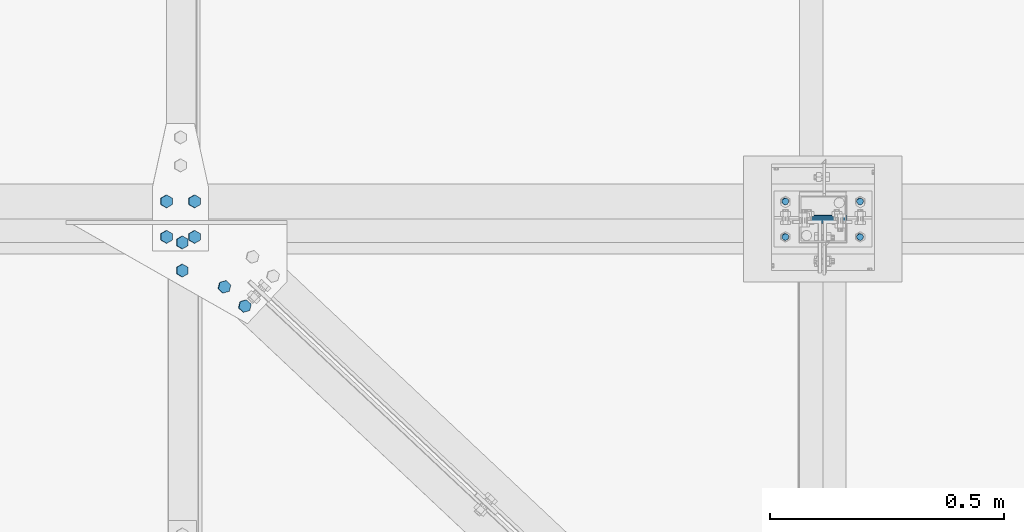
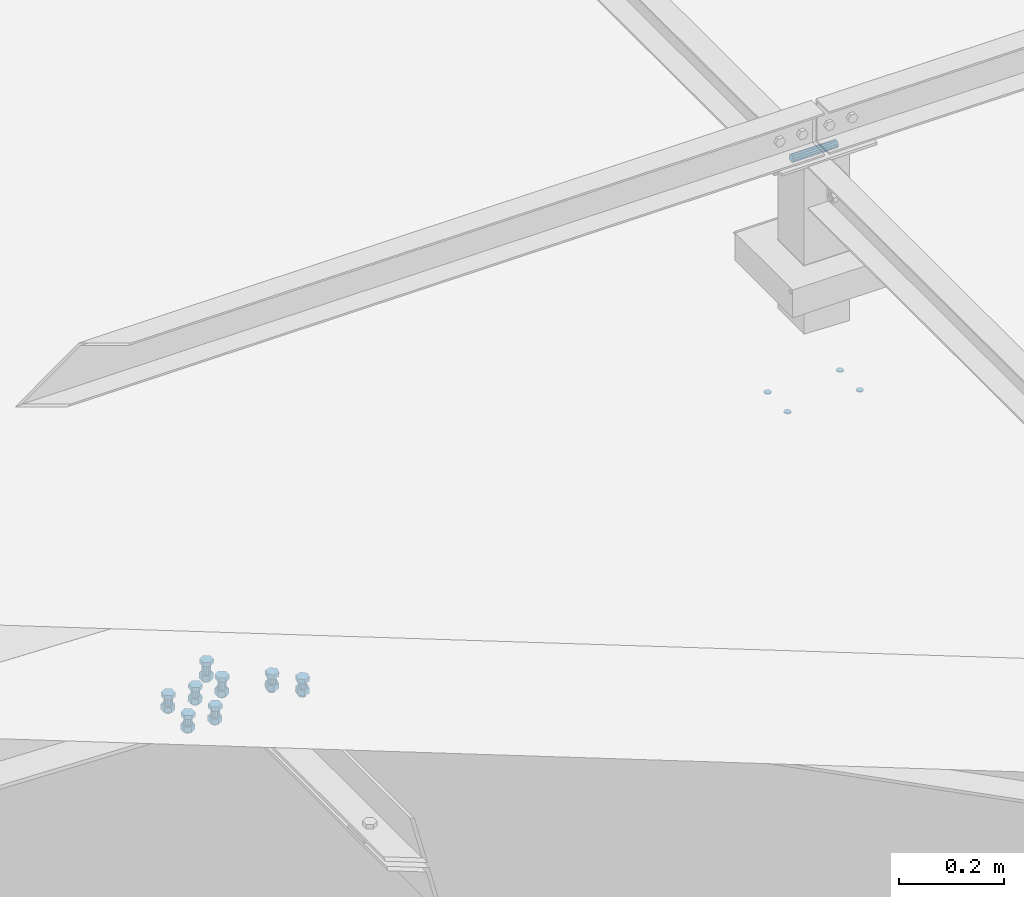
# One storey, part 313 of 3134: 5 mechanical fasteners, 5 elements without a shape of their own.
"""IFC2X3 building model written with IfcOpenShell, lengths in millimetres."""

from ifc_helpers import new_model, si_unit, frame, origin_with_axes, place, context, subcontext, project, spatial, faceted_brep, source, transform, mapped, material, type_object, element, aggregate, save


model = new_model("IFC2X3")

# Units and contexts
model_context = context("Model", 3, precision=1e-05, world=origin_with_axes())
body_context = subcontext(model_context, "Body", "Model", "MODEL_VIEW")
ifc_project = project(units=[si_unit("LENGTHUNIT", "METRE", prefix="MILLI"), si_unit("AREAUNIT", "SQUARE_METRE"), si_unit("VOLUMEUNIT", "CUBIC_METRE"), si_unit("MASSUNIT", "GRAM", prefix="KILO"), si_unit("TIMEUNIT", "SECOND"), si_unit("PLANEANGLEUNIT", "RADIAN"), si_unit("SOLIDANGLEUNIT", "STERADIAN"), si_unit("THERMODYNAMICTEMPERATUREUNIT", "DEGREE_CELSIUS"), si_unit("LUMINOUSINTENSITYUNIT", "LUMEN")], contexts=[model_context])

# Site, building, storey
site_placement = place(None, origin_with_axes())
site = spatial("IfcSite", under=ifc_project, at=site_placement, CompositionType="ELEMENT")
building_placement = place(site_placement, origin_with_axes())
building = spatial("IfcBuilding", under=site, at=building_placement, Name="Undefined", CompositionType="ELEMENT")
storey_placement = place(building_placement, origin_with_axes())
storey = spatial("IfcBuildingStorey", under=building, at=storey_placement, Name="Undefined", CompositionType="ELEMENT", Elevation=0.0)

# Assembly, mechanical fastener
assembly_1_placement = place(storey_placement, origin_with_axes())
assembly_1 = element("IfcElementAssembly", 1, at=assembly_1_placement, inside=storey, Name="300", AssemblyPlace="NOTDEFINED", PredefinedType="RIGID_FRAME")
ifc_material = material(Name="8.8")
mechanical_fastener_type = type_object("IfcMechanicalFastenerType", Name="Bolt assembly")
shared_shape_1 = source(origin_with_axes(), body_context, "Body", "Brep", [
    faceted_brep([(13.856406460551, -23.1999997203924, 0.0), (6.92820323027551, -23.1999997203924, 12.0), (-6.92820323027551, -23.1999997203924, 12.0), (-13.856406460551, -23.1999997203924, 1.69692038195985e-15), (-6.92820323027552, -23.1999997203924, -12.0), (6.9282032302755, -23.1999997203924, -12.0), (6.9282032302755, -13.1999997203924, -12.0), (-6.92820323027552, -13.1999997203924, -12.0), (-13.856406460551, -13.1999997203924, 1.69692038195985e-15), (-6.92820323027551, -13.1999997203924, 12.0), (6.92820323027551, -13.1999997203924, 12.0), (13.856406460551, -13.1999997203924, 0.0), (8.0, -13.1999997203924, 0.0), (6.92820323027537, -13.1999997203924, 4.00000000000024), (3.99999999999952, -13.1999997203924, 6.92820323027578), (-8.29068785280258e-13, -13.1999997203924, 8.0), (-4.00000000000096, -13.1999997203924, 6.92820323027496), (-6.9282032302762, -13.1999997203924, 3.99999999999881), (-8.0, -13.1999997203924, -1.65813757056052e-12), (-6.92820323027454, -13.1999997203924, -4.00000000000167), (-3.99999999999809, -13.1999997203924, -6.92820323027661), (2.47832457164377e-12, -13.1999997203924, -8.0), (4.00000000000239, -13.1999997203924, -6.92820323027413), (6.92820323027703, -13.1999997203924, -3.99999999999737), (6.92820323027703, 21.8000002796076, -3.99999999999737), (4.00000000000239, 21.8000002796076, -6.92820323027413), (2.47832457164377e-12, 21.8000002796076, -8.0), (-3.99999999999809, 21.8000002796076, -6.92820323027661), (-6.92820323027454, 21.8000002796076, -4.00000000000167), (-8.0, 21.8000002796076, -1.65813757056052e-12), (-6.9282032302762, 21.8000002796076, 3.99999999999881), (-4.00000000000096, 21.8000002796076, 6.92820323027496), (-8.29068785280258e-13, 21.8000002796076, 8.0), (3.99999999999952, 21.8000002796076, 6.92820323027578), (6.92820323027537, 21.8000002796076, 4.00000000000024), (8.0, 21.8000002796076, 0.0), (13.856406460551, 3.99999999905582, 0.0), (6.92820323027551, 3.99999999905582, 12.0), (-6.92820323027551, 3.99999999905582, 12.0), (-13.856406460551, 3.99999999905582, 1.69692038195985e-15), (-6.92820323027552, 3.99999999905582, -12.0), (6.9282032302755, 3.99999999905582, -12.0), (6.9282032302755, 16.9999999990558, -12.0), (-6.92820323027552, 16.9999999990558, -12.0), (-13.856406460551, 16.9999999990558, 1.69692038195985e-15), (-6.92820323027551, 16.9999999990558, 12.0), (6.92820323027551, 16.9999999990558, 12.0), (13.856406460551, 16.9999999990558, 0.0)], [[[0, 1, 2, 3, 4, 5]], [[6, 7, 8, 9, 10, 11]], [[0, 11, 10, 1]], [[1, 10, 9, 2]], [[2, 9, 8, 3]], [[3, 8, 7, 4]], [[4, 7, 6, 5]], [[5, 6, 11, 0]], [[12, 13, 14, 15, 16, 17, 18, 19, 20, 21, 22, 23]], [[24, 25, 26, 27, 28, 29, 30, 31, 32, 33, 34, 35]], [[12, 35, 34, 13]], [[13, 34, 33, 14]], [[14, 33, 32, 15]], [[15, 32, 31, 16]], [[16, 31, 30, 17]], [[17, 30, 29, 18]], [[18, 29, 28, 19]], [[19, 28, 27, 20]], [[20, 27, 26, 21]], [[21, 26, 25, 22]], [[22, 25, 24, 23]], [[23, 24, 35, 12]], [[36, 37, 38, 39, 40, 41]], [[42, 43, 44, 45, 46, 47]], [[36, 47, 46, 37]], [[37, 46, 45, 38]], [[38, 45, 44, 39]], [[39, 44, 43, 40]], [[40, 43, 42, 41]], [[41, 42, 47, 36]]]),
    faceted_brep([(9.0, -4.10000000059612, 0.0), (7.79422863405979, -4.10000000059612, 4.50000000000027), (4.49999999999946, -4.10000000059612, 7.79422863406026), (-9.3270238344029e-13, -4.10000000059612, 9.0), (-4.50000000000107, -4.10000000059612, 7.79422863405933), (-7.79422863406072, -4.10000000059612, 4.49999999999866), (-9.0, -4.10000000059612, -1.86540476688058e-12), (-7.79422863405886, -4.10000000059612, -4.50000000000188), (-4.49999999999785, -4.10000000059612, -7.79422863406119), (2.78811514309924e-12, -4.10000000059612, -9.0), (4.50000000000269, -4.10000000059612, -7.7942286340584), (7.79422863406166, -4.10000000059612, -4.49999999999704), (7.79422863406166, 4.00000375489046, -4.49999999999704), (4.50000000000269, 4.00000375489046, -7.7942286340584), (2.78811514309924e-12, 4.00000375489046, -9.0), (-4.49999999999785, 4.00000375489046, -7.79422863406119), (-7.79422863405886, 4.00000375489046, -4.50000000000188), (-9.0, 4.00000375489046, -1.86540476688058e-12), (-7.79422863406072, 4.00000375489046, 4.49999999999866), (-4.50000000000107, 4.00000375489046, 7.79422863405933), (-9.3270238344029e-13, 4.00000375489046, 9.0), (4.49999999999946, 4.00000375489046, 7.79422863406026), (7.79422863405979, 4.00000375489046, 4.50000000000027), (9.0, 4.00000375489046, 0.0), (9.0, -13.0999997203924, 0.0), (7.79422863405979, -13.0999997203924, 4.50000000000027), (4.49999999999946, -13.0999997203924, 7.79422863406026), (-9.3270238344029e-13, -13.0999997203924, 9.0), (-4.50000000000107, -13.0999997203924, 7.79422863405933), (-7.79422863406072, -13.0999997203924, 4.49999999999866), (-9.0, -13.0999997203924, -1.86540476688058e-12), (-7.79422863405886, -13.0999997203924, -4.50000000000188), (-4.49999999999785, -13.0999997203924, -7.79422863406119), (2.78811514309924e-12, -13.0999997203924, -9.0), (4.50000000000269, -13.0999997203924, -7.7942286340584), (7.79422863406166, -13.0999997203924, -4.49999999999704), (7.79422863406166, -3.9, -4.49999999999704), (4.50000000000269, -3.9, -7.7942286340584), (2.78811514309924e-12, -3.9, -9.0), (-4.49999999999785, -3.9, -7.79422863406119), (-7.79422863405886, -3.9, -4.50000000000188), (-9.0, -3.9, -1.86540476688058e-12), (-7.79422863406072, -3.9, 4.49999999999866), (-4.50000000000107, -3.9, 7.79422863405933), (-9.3270238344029e-13, -3.9, 9.0), (4.49999999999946, -3.9, 7.79422863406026), (7.79422863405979, -3.9, 4.50000000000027), (9.0, -3.9, 0.0)], [[[0, 1, 2, 3, 4, 5, 6, 7, 8, 9, 10, 11]], [[12, 13, 14, 15, 16, 17, 18, 19, 20, 21, 22, 23]], [[0, 23, 22, 1]], [[1, 22, 21, 2]], [[2, 21, 20, 3]], [[3, 20, 19, 4]], [[4, 19, 18, 5]], [[5, 18, 17, 6]], [[6, 17, 16, 7]], [[7, 16, 15, 8]], [[8, 15, 14, 9]], [[9, 14, 13, 10]], [[10, 13, 12, 11]], [[11, 12, 23, 0]], [[24, 25, 26, 27, 28, 29, 30, 31, 32, 33, 34, 35]], [[36, 37, 38, 39, 40, 41, 42, 43, 44, 45, 46, 47]], [[24, 47, 46, 25]], [[25, 46, 45, 26]], [[26, 45, 44, 27]], [[27, 44, 43, 28]], [[28, 43, 42, 29]], [[29, 42, 41, 30]], [[30, 41, 40, 31]], [[31, 40, 39, 32]], [[32, 39, 38, 33]], [[33, 38, 37, 34]], [[34, 37, 36, 35]], [[35, 36, 47, 24]]]),
])
mechanical_fastener_1_placement = place(assembly_1_placement, frame((71700.0552172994, 2511.9999999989, 5010.20374994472), z_axis=(-0.999519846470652, 0.0, 0.0309851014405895), x_axis=(0.0, 1.0, 0.0)))
mechanical_fastener_1 = element("IfcMechanicalFastener", 2, at=mechanical_fastener_1_placement, type_object=mechanical_fastener_type, material=ifc_material, Name="Bolt assembly", NominalDiameter=16.0, NominalLength=35.0, context=body_context, shape_type="MappedRepresentation", body=[
    mapped(shared_shape_1, transform((0.0, 4.54747350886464e-13, -30.0000000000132))),
    mapped(shared_shape_1, transform((76.0, -2.00088834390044e-10, -29.9999999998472))),
    mapped(shared_shape_1, transform((0.0, 4.54747350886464e-13, 30.0000000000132))),
    mapped(shared_shape_1, transform((76.0, 1.98269844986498e-10, 29.9999999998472))),
])
aggregate(assembly_1, [mechanical_fastener_1])

assembly_2_placement = place(storey_placement, origin_with_axes())
assembly_2 = element("IfcElementAssembly", 3, at=assembly_2_placement, inside=storey, AssemblyPlace="NOTDEFINED", PredefinedType="RIGID_FRAME")
shared_shape_2 = source(origin_with_axes(), body_context, "Body", "Brep", [
    faceted_brep([(13.856406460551, -21.0000017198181, 0.0), (6.92820323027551, -21.0000017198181, 12.0), (-6.92820323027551, -21.0000017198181, 12.0), (-13.856406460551, -21.0000017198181, 1.69692038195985e-15), (-6.92820323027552, -21.0000017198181, -12.0), (6.9282032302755, -21.0000017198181, -12.0), (6.9282032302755, -11.0000017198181, -12.0), (-6.92820323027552, -11.0000017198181, -12.0), (-13.856406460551, -11.0000017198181, 1.69692038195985e-15), (-6.92820323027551, -11.0000017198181, 12.0), (6.92820323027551, -11.0000017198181, 12.0), (13.856406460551, -11.0000017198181, 0.0), (8.0, -11.0000017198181, 0.0), (6.92820323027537, -11.0000017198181, 4.00000000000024), (3.99999999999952, -11.0000017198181, 6.92820323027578), (-8.29068785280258e-13, -11.0000017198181, 8.0), (-4.00000000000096, -11.0000017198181, 6.92820323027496), (-6.9282032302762, -11.0000017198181, 3.99999999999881), (-8.0, -11.0000017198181, -1.65813757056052e-12), (-6.92820323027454, -11.0000017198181, -4.00000000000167), (-3.99999999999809, -11.0000017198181, -6.92820323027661), (2.47832457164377e-12, -11.0000017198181, -8.0), (4.00000000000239, -11.0000017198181, -6.92820323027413), (6.92820323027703, -11.0000017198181, -3.99999999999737), (6.92820323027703, 23.9999999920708, -3.99999999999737), (4.00000000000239, 23.9999999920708, -6.92820323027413), (2.47832457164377e-12, 23.9999999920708, -8.0), (-3.99999999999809, 23.9999999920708, -6.92820323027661), (-6.92820323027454, 23.9999999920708, -4.00000000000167), (-8.0, 23.9999999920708, -1.65813757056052e-12), (-6.9282032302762, 23.9999999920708, 3.99999999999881), (-4.00000000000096, 23.9999999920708, 6.92820323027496), (-8.29068785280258e-13, 23.9999999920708, 8.0), (3.99999999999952, 23.9999999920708, 6.92820323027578), (6.92820323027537, 23.9999999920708, 4.00000000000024), (8.0, 23.9999999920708, 0.0), (13.856406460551, 3.99999999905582, 0.0), (6.92820323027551, 3.99999999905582, 12.0), (-6.92820323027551, 3.99999999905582, 12.0), (-13.856406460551, 3.99999999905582, 1.69692038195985e-15), (-6.92820323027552, 3.99999999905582, -12.0), (6.9282032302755, 3.99999999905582, -12.0), (6.9282032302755, 16.9999999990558, -12.0), (-6.92820323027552, 16.9999999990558, -12.0), (-13.856406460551, 16.9999999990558, 1.69692038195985e-15), (-6.92820323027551, 16.9999999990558, 12.0), (6.92820323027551, 16.9999999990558, 12.0), (13.856406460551, 16.9999999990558, 0.0)], [[[0, 1, 2, 3, 4, 5]], [[6, 7, 8, 9, 10, 11]], [[0, 11, 10, 1]], [[1, 10, 9, 2]], [[2, 9, 8, 3]], [[3, 8, 7, 4]], [[4, 7, 6, 5]], [[5, 6, 11, 0]], [[12, 13, 14, 15, 16, 17, 18, 19, 20, 21, 22, 23]], [[24, 25, 26, 27, 28, 29, 30, 31, 32, 33, 34, 35]], [[12, 35, 34, 13]], [[13, 34, 33, 14]], [[14, 33, 32, 15]], [[15, 32, 31, 16]], [[16, 31, 30, 17]], [[17, 30, 29, 18]], [[18, 29, 28, 19]], [[19, 28, 27, 20]], [[20, 27, 26, 21]], [[21, 26, 25, 22]], [[22, 25, 24, 23]], [[23, 24, 35, 12]], [[36, 37, 38, 39, 40, 41]], [[42, 43, 44, 45, 46, 47]], [[36, 47, 46, 37]], [[37, 46, 45, 38]], [[38, 45, 44, 39]], [[39, 44, 43, 40]], [[40, 43, 42, 41]], [[41, 42, 47, 36]]]),
    faceted_brep([(9.0, -4.10000000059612, 0.0), (7.79422863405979, -4.10000000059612, 4.50000000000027), (4.49999999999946, -4.10000000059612, 7.79422863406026), (-9.3270238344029e-13, -4.10000000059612, 9.0), (-4.50000000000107, -4.10000000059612, 7.79422863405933), (-7.79422863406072, -4.10000000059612, 4.49999999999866), (-9.0, -4.10000000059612, -1.86540476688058e-12), (-7.79422863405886, -4.10000000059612, -4.50000000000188), (-4.49999999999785, -4.10000000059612, -7.79422863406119), (2.78811514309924e-12, -4.10000000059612, -9.0), (4.50000000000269, -4.10000000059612, -7.7942286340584), (7.79422863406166, -4.10000000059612, -4.49999999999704), (7.79422863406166, 4.00000375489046, -4.49999999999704), (4.50000000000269, 4.00000375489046, -7.7942286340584), (2.78811514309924e-12, 4.00000375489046, -9.0), (-4.49999999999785, 4.00000375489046, -7.79422863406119), (-7.79422863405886, 4.00000375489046, -4.50000000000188), (-9.0, 4.00000375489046, -1.86540476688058e-12), (-7.79422863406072, 4.00000375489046, 4.49999999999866), (-4.50000000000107, 4.00000375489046, 7.79422863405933), (-9.3270238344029e-13, 4.00000375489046, 9.0), (4.49999999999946, 4.00000375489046, 7.79422863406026), (7.79422863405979, 4.00000375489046, 4.50000000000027), (9.0, 4.00000375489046, 0.0), (9.0, -10.9000017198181, 0.0), (7.79422863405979, -10.9000017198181, 4.50000000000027), (4.49999999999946, -10.9000017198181, 7.79422863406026), (-9.3270238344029e-13, -10.9000017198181, 9.0), (-4.50000000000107, -10.9000017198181, 7.79422863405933), (-7.79422863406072, -10.9000017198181, 4.49999999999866), (-9.0, -10.9000017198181, -1.86540476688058e-12), (-7.79422863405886, -10.9000017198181, -4.50000000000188), (-4.49999999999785, -10.9000017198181, -7.79422863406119), (2.78811514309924e-12, -10.9000017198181, -9.0), (4.50000000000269, -10.9000017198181, -7.7942286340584), (7.79422863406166, -10.9000017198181, -4.49999999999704), (7.79422863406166, -3.9, -4.49999999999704), (4.50000000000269, -3.9, -7.7942286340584), (2.78811514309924e-12, -3.9, -9.0), (-4.49999999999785, -3.9, -7.79422863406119), (-7.79422863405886, -3.9, -4.50000000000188), (-9.0, -3.9, -1.86540476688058e-12), (-7.79422863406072, -3.9, 4.49999999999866), (-4.50000000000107, -3.9, 7.79422863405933), (-9.3270238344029e-13, -3.9, 9.0), (4.49999999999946, -3.9, 7.79422863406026), (7.79422863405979, -3.9, 4.50000000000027), (9.0, -3.9, 0.0)], [[[0, 1, 2, 3, 4, 5, 6, 7, 8, 9, 10, 11]], [[12, 13, 14, 15, 16, 17, 18, 19, 20, 21, 22, 23]], [[0, 23, 22, 1]], [[1, 22, 21, 2]], [[2, 21, 20, 3]], [[3, 20, 19, 4]], [[4, 19, 18, 5]], [[5, 18, 17, 6]], [[6, 17, 16, 7]], [[7, 16, 15, 8]], [[8, 15, 14, 9]], [[9, 14, 13, 10]], [[10, 13, 12, 11]], [[11, 12, 23, 0]], [[24, 25, 26, 27, 28, 29, 30, 31, 32, 33, 34, 35]], [[36, 37, 38, 39, 40, 41, 42, 43, 44, 45, 46, 47]], [[24, 47, 46, 25]], [[25, 46, 45, 26]], [[26, 45, 44, 27]], [[27, 44, 43, 28]], [[28, 43, 42, 29]], [[29, 42, 41, 30]], [[30, 41, 40, 31]], [[31, 40, 39, 32]], [[32, 39, 38, 33]], [[33, 38, 37, 34]], [[34, 37, 36, 35]], [[35, 36, 47, 24]]]),
])
mechanical_fastener_2_placement = place(assembly_2_placement, frame((71837.7243620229, 2363.92772422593, 5128.48736622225), z_axis=(-0.684081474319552, -0.729097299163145, 0.0212053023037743), x_axis=(-0.728747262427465, 0.684410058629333, 0.0225898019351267)))
mechanical_fastener_2 = element("IfcMechanicalFastener", 4, at=mechanical_fastener_2_placement, type_object=mechanical_fastener_type, material=ifc_material, Name="Bolt assembly", NominalDiameter=16.0, NominalLength=35.0, context=body_context, shape_type="MappedRepresentation", body=[
    mapped(shared_shape_2, transform((0.0, 0.0, 0.0))),
    mapped(shared_shape_2, transform((59.9999999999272, 0.0, 5.40239852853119e-10))),
])
aggregate(assembly_2, [mechanical_fastener_2])

assembly_3_placement = place(storey_placement, origin_with_axes())
assembly_3 = element("IfcElementAssembly", 5, at=assembly_3_placement, inside=storey, AssemblyPlace="NOTDEFINED", PredefinedType="RIGID_FRAME")
shared_shape_3 = source(origin_with_axes(), body_context, "Body", "Brep", [
    faceted_brep([(7.0, 13.0000253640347, 0.0), (6.06217782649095, 13.0000253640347, 3.50000000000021), (3.49999999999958, 13.0000253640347, 6.06217782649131), (-7.25435187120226e-13, 13.0000253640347, 7.0), (-3.50000000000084, 13.0000253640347, 6.06217782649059), (-6.06217782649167, 13.0000253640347, 3.49999999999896), (-7.0, 13.0000253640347, -1.45087037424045e-12), (-6.06217782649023, 13.0000253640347, -3.50000000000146), (-3.49999999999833, 13.0000253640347, -6.06217782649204), (2.1685340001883e-12, 13.0000253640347, -7.0), (3.50000000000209, 13.0000253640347, -6.06217782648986), (6.0621778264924, 13.0000253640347, -3.4999999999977), (6.0621778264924, 15.0999999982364, -3.4999999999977), (3.50000000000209, 15.0999999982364, -6.06217782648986), (2.1685340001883e-12, 15.0999999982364, -7.0), (-3.49999999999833, 15.0999999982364, -6.06217782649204), (-6.06217782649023, 15.0999999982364, -3.50000000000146), (-7.0, 15.0999999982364, -1.45087037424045e-12), (-6.06217782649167, 15.0999999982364, 3.49999999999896), (-3.50000000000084, 15.0999999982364, 6.06217782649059), (-7.25435187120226e-13, 15.0999999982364, 7.0), (3.49999999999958, 15.0999999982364, 6.06217782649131), (6.06217782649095, 15.0999999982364, 3.50000000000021), (7.0, 15.0999999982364, 0.0)], [[[0, 1, 2, 3, 4, 5, 6, 7, 8, 9, 10, 11]], [[12, 13, 14, 15, 16, 17, 18, 19, 20, 21, 22, 23]], [[0, 23, 22, 1]], [[1, 22, 21, 2]], [[2, 21, 20, 3]], [[3, 20, 19, 4]], [[4, 19, 18, 5]], [[5, 18, 17, 6]], [[6, 17, 16, 7]], [[7, 16, 15, 8]], [[8, 15, 14, 9]], [[9, 14, 13, 10]], [[10, 13, 12, 11]], [[11, 12, 23, 0]]]),
])
mechanical_fastener_3_placement = place(assembly_3_placement, frame((73074.3451187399, 2588.0, 5255.7372055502), z_axis=(-0.99951962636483, 0.0, 0.0309922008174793), x_axis=(0.0, -1.0, 0.0)))
mechanical_fastener_3 = element("IfcMechanicalFastener", 6, at=mechanical_fastener_3_placement, type_object=mechanical_fastener_type, material=ifc_material, Name="Bolt assembly", NominalDiameter=12.0, NominalLength=2.0, context=body_context, shape_type="MappedRepresentation", body=[
    mapped(shared_shape_3, transform((0.0, -5.32963895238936e-10, -79.9999999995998))),
    mapped(shared_shape_3, transform((76.0, -5.32963895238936e-10, -79.9999999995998))),
    mapped(shared_shape_3, transform((0.0, 5.3114490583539e-10, 79.9999999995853))),
    mapped(shared_shape_3, transform((76.0, 5.3114490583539e-10, 79.9999999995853))),
])
aggregate(assembly_3, [mechanical_fastener_3])

assembly_4_placement = place(storey_placement, origin_with_axes())
assembly_4 = element("IfcElementAssembly", 7, at=assembly_4_placement, inside=storey, AssemblyPlace="NOTDEFINED", PredefinedType="RIGID_FRAME")
shared_shape_4 = source(origin_with_axes(), body_context, "Body", "Brep", [
    faceted_brep([(9.0, -50.0, 0.0), (7.79422863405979, -50.0, 4.50000000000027), (4.49999999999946, -50.0, 7.79422863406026), (-9.3270238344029e-13, -50.0, 9.0), (-4.50000000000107, -50.0, 7.79422863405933), (-7.79422863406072, -50.0, 4.49999999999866), (-9.0, -50.0, -1.86540476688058e-12), (-7.79422863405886, -50.0, -4.50000000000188), (-4.49999999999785, -50.0, -7.79422863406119), (2.78811514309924e-12, -50.0, -9.0), (4.50000000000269, -50.0, -7.7942286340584), (7.79422863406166, -50.0, -4.49999999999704), (7.79422863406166, 50.1, -4.49999999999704), (4.50000000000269, 50.1, -7.7942286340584), (2.78811514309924e-12, 50.1, -9.0), (-4.49999999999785, 50.1, -7.79422863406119), (-7.79422863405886, 50.1, -4.50000000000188), (-9.0, 50.1, -1.86540476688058e-12), (-7.79422863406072, 50.1, 4.49999999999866), (-4.50000000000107, 50.1, 7.79422863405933), (-9.3270238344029e-13, 50.1, 9.0), (4.49999999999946, 50.1, 7.79422863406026), (7.79422863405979, 50.1, 4.50000000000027), (9.0, 50.1, 0.0)], [[[0, 1, 2, 3, 4, 5, 6, 7, 8, 9, 10, 11]], [[12, 13, 14, 15, 16, 17, 18, 19, 20, 21, 22, 23]], [[0, 23, 22, 1]], [[1, 22, 21, 2]], [[2, 21, 20, 3]], [[3, 20, 19, 4]], [[4, 19, 18, 5]], [[5, 18, 17, 6]], [[6, 17, 16, 7]], [[7, 16, 15, 8]], [[8, 15, 14, 9]], [[9, 14, 13, 10]], [[10, 13, 12, 11]], [[11, 12, 23, 0]]]),
])
mechanical_fastener_4_placement = place(assembly_4_placement, frame((73075.0, 2550.0, 5830.0), z_axis=(0.0, 1.0, 0.0), x_axis=(0.0, 0.0, 1.0)))
mechanical_fastener_4 = element("IfcMechanicalFastener", 8, at=mechanical_fastener_4_placement, type_object=mechanical_fastener_type, material=ifc_material, Name="Bolt assembly", NominalDiameter=16.0, NominalLength=100.0, context=body_context, shape_type="MappedRepresentation", body=[
    mapped(shared_shape_4, transform((0.0, 0.0, 0.0))),
])
aggregate(assembly_4, [mechanical_fastener_4])

assembly_5_placement = place(storey_placement, origin_with_axes())
assembly_5 = element("IfcElementAssembly", 9, at=assembly_5_placement, inside=storey, AssemblyPlace="NOTDEFINED", PredefinedType="RIGID_FRAME")
shared_shape_5 = source(origin_with_axes(), body_context, "Body", "Brep", [
    faceted_brep([(13.856406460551, -20.9956786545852, 0.0), (6.92820323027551, -20.9956786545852, 12.0), (-6.92820323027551, -20.9956786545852, 12.0), (-13.856406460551, -20.9956786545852, 1.69692038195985e-15), (-6.92820323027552, -20.9956786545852, -12.0), (6.9282032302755, -20.9956786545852, -12.0), (6.9282032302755, -10.9956786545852, -12.0), (-6.92820323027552, -10.9956786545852, -12.0), (-13.856406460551, -10.9956786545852, 1.69692038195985e-15), (-6.92820323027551, -10.9956786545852, 12.0), (6.92820323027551, -10.9956786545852, 12.0), (13.856406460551, -10.9956786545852, 0.0), (8.0, -10.9956786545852, 0.0), (6.92820323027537, -10.9956786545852, 4.00000000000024), (3.99999999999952, -10.9956786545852, 6.92820323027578), (-8.29068785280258e-13, -10.9956786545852, 8.0), (-4.00000000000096, -10.9956786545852, 6.92820323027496), (-6.9282032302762, -10.9956786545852, 3.99999999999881), (-8.0, -10.9956786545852, -1.65813757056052e-12), (-6.92820323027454, -10.9956786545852, -4.00000000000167), (-3.99999999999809, -10.9956786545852, -6.92820323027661), (2.47832457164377e-12, -10.9956786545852, -8.0), (4.00000000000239, -10.9956786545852, -6.92820323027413), (6.92820323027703, -10.9956786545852, -3.99999999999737), (6.92820323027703, 29.0043213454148, -3.99999999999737), (4.00000000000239, 29.0043213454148, -6.92820323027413), (2.47832457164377e-12, 29.0043213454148, -8.0), (-3.99999999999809, 29.0043213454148, -6.92820323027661), (-6.92820323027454, 29.0043213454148, -4.00000000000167), (-8.0, 29.0043213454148, -1.65813757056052e-12), (-6.9282032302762, 29.0043213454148, 3.99999999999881), (-4.00000000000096, 29.0043213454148, 6.92820323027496), (-8.29068785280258e-13, 29.0043213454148, 8.0), (3.99999999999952, 29.0043213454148, 6.92820323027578), (6.92820323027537, 29.0043213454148, 4.00000000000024), (8.0, 29.0043213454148, 0.0), (13.856406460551, 11.0013213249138, 0.0), (6.92820323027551, 11.0013213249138, 12.0), (-6.92820323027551, 11.0013213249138, 12.0), (-13.856406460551, 11.0013213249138, 1.69692038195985e-15), (-6.92820323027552, 11.0013213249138, -12.0), (6.9282032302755, 11.0013213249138, -12.0), (6.9282032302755, 24.0013213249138, -12.0), (-6.92820323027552, 24.0013213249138, -12.0), (-13.856406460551, 24.0013213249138, 1.69692038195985e-15), (-6.92820323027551, 24.0013213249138, 12.0), (6.92820323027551, 24.0013213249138, 12.0), (13.856406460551, 24.0013213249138, 0.0)], [[[0, 1, 2, 3, 4, 5]], [[6, 7, 8, 9, 10, 11]], [[0, 11, 10, 1]], [[1, 10, 9, 2]], [[2, 9, 8, 3]], [[3, 8, 7, 4]], [[4, 7, 6, 5]], [[5, 6, 11, 0]], [[12, 13, 14, 15, 16, 17, 18, 19, 20, 21, 22, 23]], [[24, 25, 26, 27, 28, 29, 30, 31, 32, 33, 34, 35]], [[12, 35, 34, 13]], [[13, 34, 33, 14]], [[14, 33, 32, 15]], [[15, 32, 31, 16]], [[16, 31, 30, 17]], [[17, 30, 29, 18]], [[18, 29, 28, 19]], [[19, 28, 27, 20]], [[20, 27, 26, 21]], [[21, 26, 25, 22]], [[22, 25, 24, 23]], [[23, 24, 35, 12]], [[36, 37, 38, 39, 40, 41]], [[42, 43, 44, 45, 46, 47]], [[36, 47, 46, 37]], [[37, 46, 45, 38]], [[38, 45, 44, 39]], [[39, 44, 43, 40]], [[40, 43, 42, 41]], [[41, 42, 47, 36]]]),
    faceted_brep([(9.0, -10.8956786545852, 0.0), (7.79422863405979, -10.8956786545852, 4.50000000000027), (4.49999999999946, -10.8956786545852, 7.79422863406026), (-9.3270238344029e-13, -10.8956786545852, 9.0), (-4.50000000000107, -10.8956786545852, 7.79422863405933), (-7.79422863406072, -10.8956786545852, 4.49999999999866), (-9.0, -10.8956786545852, -1.86540476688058e-12), (-7.79422863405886, -10.8956786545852, -4.50000000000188), (-4.49999999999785, -10.8956786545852, -7.79422863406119), (2.78811514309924e-12, -10.8956786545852, -9.0), (4.50000000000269, -10.8956786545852, -7.7942286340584), (7.79422863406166, -10.8956786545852, -4.49999999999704), (7.79422863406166, -3.89567865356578, -4.49999999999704), (4.50000000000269, -3.89567865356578, -7.7942286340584), (2.78811514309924e-12, -3.89567865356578, -9.0), (-4.49999999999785, -3.89567865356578, -7.79422863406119), (-7.79422863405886, -3.89567865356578, -4.50000000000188), (-9.0, -3.89567865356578, -1.86540476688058e-12), (-7.79422863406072, -3.89567865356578, 4.49999999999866), (-4.50000000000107, -3.89567865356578, 7.79422863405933), (-9.3270238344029e-13, -3.89567865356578, 9.0), (4.49999999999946, -3.89567865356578, 7.79422863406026), (7.79422863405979, -3.89567865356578, 4.50000000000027), (9.0, -3.89567865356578, 0.0), (9.0, 3.90132132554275, 0.0), (7.79422863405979, 3.90132132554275, 4.50000000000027), (4.49999999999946, 3.90132132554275, 7.79422863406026), (-9.3270238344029e-13, 3.90132132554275, 9.0), (-4.50000000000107, 3.90132132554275, 7.79422863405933), (-7.79422863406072, 3.90132132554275, 4.49999999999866), (-9.0, 3.90132132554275, -1.86540476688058e-12), (-7.79422863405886, 3.90132132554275, -4.50000000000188), (-4.49999999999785, 3.90132132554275, -7.79422863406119), (2.78811514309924e-12, 3.90132132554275, -9.0), (4.50000000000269, 3.90132132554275, -7.7942286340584), (7.79422863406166, 3.90132132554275, -4.49999999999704), (7.79422863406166, 11.0013213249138, -4.49999999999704), (4.50000000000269, 11.0013213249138, -7.7942286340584), (2.78811514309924e-12, 11.0013213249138, -9.0), (-4.49999999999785, 11.0013213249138, -7.79422863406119), (-7.79422863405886, 11.0013213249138, -4.50000000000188), (-9.0, 11.0013213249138, -1.86540476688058e-12), (-7.79422863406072, 11.0013213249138, 4.49999999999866), (-4.50000000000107, 11.0013213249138, 7.79422863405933), (-9.3270238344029e-13, 11.0013213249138, 9.0), (4.49999999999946, 11.0013213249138, 7.79422863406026), (7.79422863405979, 11.0013213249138, 4.50000000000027), (9.0, 11.0013213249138, 0.0), (9.0, -3.99999624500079, 0.0), (7.79422863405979, -3.99999624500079, 4.50000000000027), (4.49999999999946, -3.99999624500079, 7.79422863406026), (-9.3270238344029e-13, -3.99999624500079, 9.0), (-4.50000000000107, -3.99999624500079, 7.79422863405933), (-7.79422863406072, -3.99999624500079, 4.49999999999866), (-9.0, -3.99999624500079, -1.86540476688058e-12), (-7.79422863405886, -3.99999624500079, -4.50000000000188), (-4.49999999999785, -3.99999624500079, -7.79422863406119), (2.78811514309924e-12, -3.99999624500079, -9.0), (4.50000000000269, -3.99999624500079, -7.7942286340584), (7.79422863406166, -3.99999624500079, -4.49999999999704), (7.79422863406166, 4.00000375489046, -4.49999999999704), (4.50000000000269, 4.00000375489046, -7.7942286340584), (2.78811514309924e-12, 4.00000375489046, -9.0), (-4.49999999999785, 4.00000375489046, -7.79422863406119), (-7.79422863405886, 4.00000375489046, -4.50000000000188), (-9.0, 4.00000375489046, -1.86540476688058e-12), (-7.79422863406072, 4.00000375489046, 4.49999999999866), (-4.50000000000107, 4.00000375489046, 7.79422863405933), (-9.3270238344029e-13, 4.00000375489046, 9.0), (4.49999999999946, 4.00000375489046, 7.79422863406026), (7.79422863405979, 4.00000375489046, 4.50000000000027), (9.0, 4.00000375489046, 0.0)], [[[0, 1, 2, 3, 4, 5, 6, 7, 8, 9, 10, 11]], [[12, 13, 14, 15, 16, 17, 18, 19, 20, 21, 22, 23]], [[0, 23, 22, 1]], [[1, 22, 21, 2]], [[2, 21, 20, 3]], [[3, 20, 19, 4]], [[4, 19, 18, 5]], [[5, 18, 17, 6]], [[6, 17, 16, 7]], [[7, 16, 15, 8]], [[8, 15, 14, 9]], [[9, 14, 13, 10]], [[10, 13, 12, 11]], [[11, 12, 23, 0]], [[24, 25, 26, 27, 28, 29, 30, 31, 32, 33, 34, 35]], [[36, 37, 38, 39, 40, 41, 42, 43, 44, 45, 46, 47]], [[24, 47, 46, 25]], [[25, 46, 45, 26]], [[26, 45, 44, 27]], [[27, 44, 43, 28]], [[28, 43, 42, 29]], [[29, 42, 41, 30]], [[30, 41, 40, 31]], [[31, 40, 39, 32]], [[32, 39, 38, 33]], [[33, 38, 37, 34]], [[34, 37, 36, 35]], [[35, 36, 47, 24]], [[48, 49, 50, 51, 52, 53, 54, 55, 56, 57, 58, 59]], [[60, 61, 62, 63, 64, 65, 66, 67, 68, 69, 70, 71]], [[48, 71, 70, 49]], [[49, 70, 69, 50]], [[50, 69, 68, 51]], [[51, 68, 67, 52]], [[52, 67, 66, 53]], [[53, 66, 65, 54]], [[54, 65, 64, 55]], [[55, 64, 63, 56]], [[56, 63, 62, 57]], [[57, 62, 61, 58]], [[58, 61, 60, 59]], [[59, 60, 71, 48]]]),
])
mechanical_fastener_5_placement = place(assembly_5_placement, frame((71703.8553203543, 2499.9999999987, 5132.63706976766), z_axis=(0.99951990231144, 0.0, -0.0309833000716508), x_axis=(0.0, -1.0, 0.0)))
mechanical_fastener_5 = element("IfcMechanicalFastener", 10, at=mechanical_fastener_5_placement, type_object=mechanical_fastener_type, material=ifc_material, Name="Bolt assembly", NominalDiameter=16.0, NominalLength=40.0, context=body_context, shape_type="MappedRepresentation", body=[
    mapped(shared_shape_5, transform((0.0, 0.0, 0.0))),
    mapped(shared_shape_5, transform((59.9999999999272, 0.0, 5.40239852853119e-10))),
])
aggregate(assembly_5, [mechanical_fastener_5])

save(model, "model.ifc")
